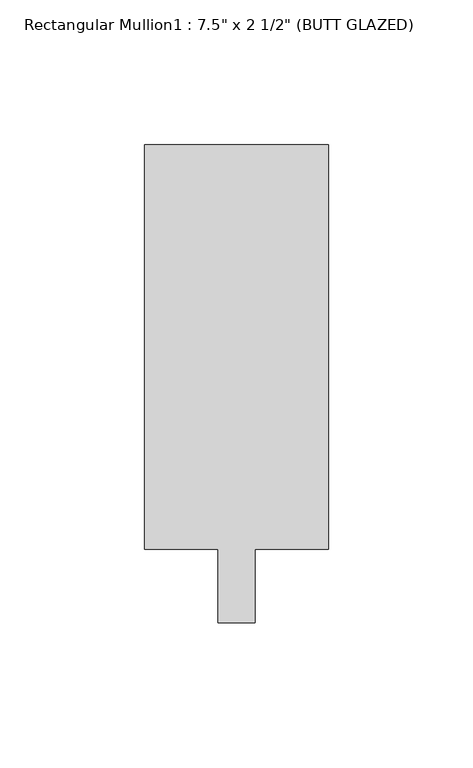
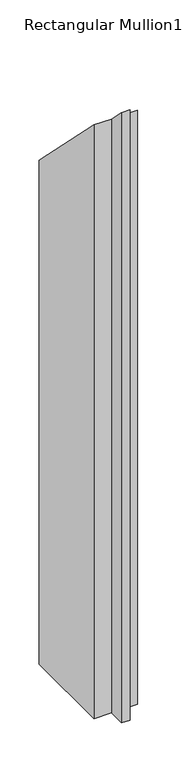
"""IFC4 building model written with IfcOpenShell, lengths in millimetres: member geometry."""

from ifc_helpers import new_model, si_unit, origin, place, context, project, spatial, faceted_brep, source, transform, mapped, element, save


def member_1ebf46c5(model_context):
    return source(origin(), model_context, "Body", "Brep", [
        faceted_brep([(31.75, 165.1, -946.15), (31.75, 25.4, -946.15), (6.35, 25.4, -946.15), (6.35, 0.0, -946.15), (-6.35, 0.0, -946.15), (-6.35, 25.4, -946.15), (-31.75, 25.4, -946.15), (-31.75, 165.1, -946.15), (-31.75, 165.1, -165.1), (31.75, 165.1, -165.1), (-31.75, 25.4, -25.4), (-6.35, 25.4, -25.4), (-6.35, 0.0, 0.0), (6.35, 0.0, 0.0), (6.35, 25.4, -25.4), (31.75, 25.4, -25.4)], [[[0, 1, 2, 3, 4, 5, 6, 7]], [[8, 9, 0, 7]], [[10, 8, 7, 6]], [[11, 10, 6, 5]], [[12, 11, 5, 4]], [[13, 12, 4, 3]], [[14, 13, 3, 2]], [[15, 14, 2, 1]], [[9, 15, 1, 0]], [[9, 8, 10, 11, 12, 13, 14, 15]]]),
    ])


if __name__ == "__main__":
    model = new_model("IFC4")
    model_context = context("Model", 3, world=origin())
    ifc_project = project(units=[si_unit("LENGTHUNIT", "METRE", prefix="MILLI")], contexts=[model_context])
    site = spatial("IfcSite", under=ifc_project)
    building = spatial("IfcBuilding", under=site)
    placement = place(None, origin())
    member_shape = member_1ebf46c5(model_context)
    element("IfcMember", 1, ObjectType="Rectangular Mullion1 : 7.5\" x 2 1/2\" (BUTT GLAZED)", at=placement, inside=building, context=model_context, shape_type="MappedRepresentation", body=[
        mapped(member_shape, transform((0.0, 0.0, 0.0), x_axis=(1.0, 0.0, 0.0), y_axis=(0.0, 1.0, 0.0), z_axis=(0.0, 0.0, 1.0))),
    ])
    save(model, "model.ifc")
